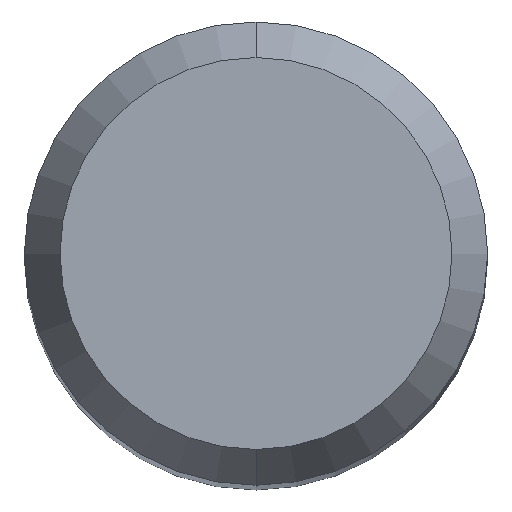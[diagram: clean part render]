
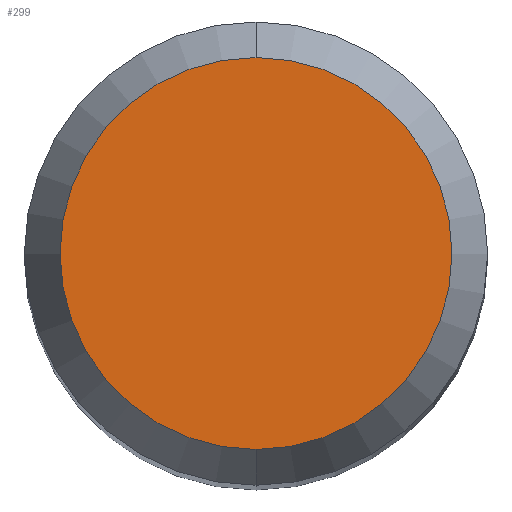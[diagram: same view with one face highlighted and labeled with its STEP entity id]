
A CAD part, top view. The second image highlights one B-rep face of the part: STEP entity #299.
In plain terms, the highlighted planar face has unit normal (0, 0, 1).
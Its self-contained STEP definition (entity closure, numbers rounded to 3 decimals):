
#201=VERTEX_POINT('',#495);
#237=VERTEX_POINT('',#535);
#299=ADVANCED_FACE('',(#606),#607,.T.);
#301=EDGE_CURVE('',#201,#237,#609,.T.);
#385=EDGE_CURVE('',#237,#201,#702,.T.);
#495=CARTESIAN_POINT('',(0.,-2.538,0.0));
#535=CARTESIAN_POINT('',(0.0,2.538,0.0));
#606=FACE_OUTER_BOUND('',#1052,.T.);
#607=PLANE('',#1053);
#609=CIRCLE('',#1056,2.538);
#702=CIRCLE('',#1293,2.538);
#1052=EDGE_LOOP('',(#1561,#1562));
#1053=AXIS2_PLACEMENT_3D('',#1563,#1564,#1565);
#1056=AXIS2_PLACEMENT_3D('',#1566,#1567,#1568);
#1293=AXIS2_PLACEMENT_3D('',#1671,#1672,#1673);
#1561=ORIENTED_EDGE('',*,*,#385,.F.);
#1562=ORIENTED_EDGE('',*,*,#301,.F.);
#1563=CARTESIAN_POINT('',(0.0,1.269,0.0));
#1564=DIRECTION('',(-0.0,0.0,1.0));
#1565=DIRECTION('',(0.0,-1.0,0.0));
#1566=CARTESIAN_POINT('',(0.0,0.0,0.0));
#1567=DIRECTION('',(0.0,0.0,-1.0));
#1568=DIRECTION('',(0.0,1.0,0.0));
#1671=CARTESIAN_POINT('',(0.0,0.0,0.0));
#1672=DIRECTION('',(0.0,0.0,-1.0));
#1673=DIRECTION('',(0.0,1.0,0.0));
